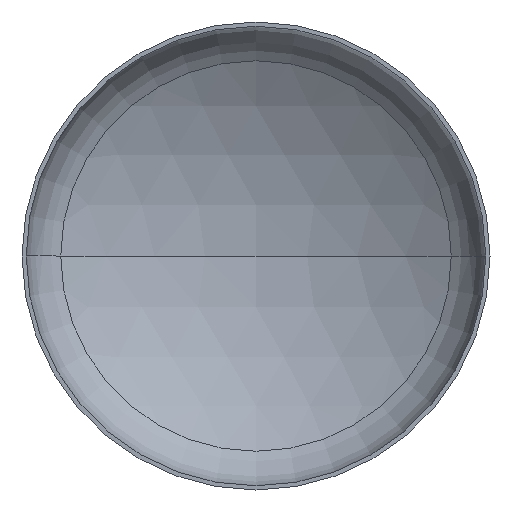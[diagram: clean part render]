
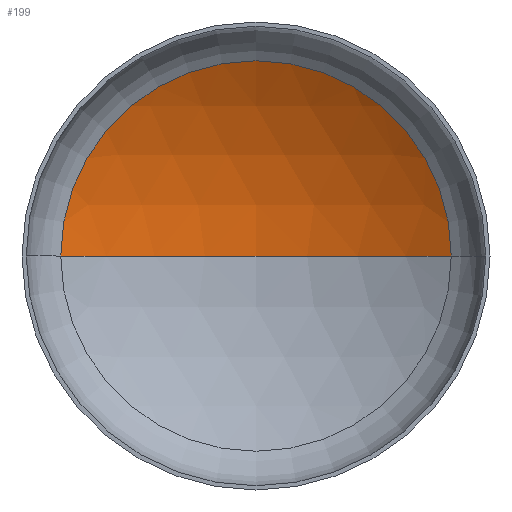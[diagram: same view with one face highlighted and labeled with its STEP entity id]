
A CAD part, front view. The second image highlights one B-rep face of the part: STEP entity #199.
In plain terms, the highlighted spherical face has radius 4800 mm.
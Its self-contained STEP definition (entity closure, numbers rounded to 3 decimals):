
#13 = VERTEX_POINT ( 'NONE', #242 ) ;
#19 = VERTEX_POINT ( 'NONE', #275 ) ;
#45 = CIRCLE ( 'NONE', #91, 4800. ) ;
#91 = AXIS2_PLACEMENT_3D ( 'NONE', #260, #225, #220 ) ;
#95 = AXIS2_PLACEMENT_3D ( 'NONE', #252, #251, #248 ) ;
#99 = AXIS2_PLACEMENT_3D ( 'NONE', #154, #157, #183 ) ;
#104 = ORIENTED_EDGE ( 'NONE', *, *, #227, .F. ) ;
#118 = CARTESIAN_POINT ( 'NONE',  ( -2503.432, 909.23, 0. ) ) ;
#128 = AXIS2_PLACEMENT_3D ( 'NONE', #158, #337, #281 ) ;
#144 = ORIENTED_EDGE ( 'NONE', *, *, #224, .T. ) ;
#154 = CARTESIAN_POINT ( 'NONE',  ( 0., 909.23, 0. ) ) ;
#157 = DIRECTION ( 'NONE',  ( 0., -1., 0. ) ) ;
#158 = CARTESIAN_POINT ( 'NONE',  ( 0., -3186.234, 0. ) ) ;
#183 = DIRECTION ( 'NONE',  ( 1., 0., 0. ) ) ;
#199 = ADVANCED_FACE ( 'NONE', ( #375 ), #300, .F. ) ;
#212 = CIRCLE ( 'NONE', #99, 2503.432 ) ;
#220 = DIRECTION ( 'NONE',  ( 1., 0., 0. ) ) ;
#221 = EDGE_CURVE ( 'NONE', #19, #334, #212, .T. ) ;
#224 = EDGE_CURVE ( 'NONE', #13, #19, #358, .T. ) ;
#225 = DIRECTION ( 'NONE',  ( 0., 0., 1. ) ) ;
#227 = EDGE_CURVE ( 'NONE', #13, #334, #45, .T. ) ;
#242 = CARTESIAN_POINT ( 'NONE',  ( 0., 1613.766, 0. ) ) ;
#248 = DIRECTION ( 'NONE',  ( -1., 0., 0. ) ) ;
#251 = DIRECTION ( 'NONE',  ( 0., 0., -1. ) ) ;
#252 = CARTESIAN_POINT ( 'NONE',  ( 0., -3186.234, 0. ) ) ;
#260 = CARTESIAN_POINT ( 'NONE',  ( 0., -3186.234, 0. ) ) ;
#275 = CARTESIAN_POINT ( 'NONE',  ( 2503.432, 909.23, 0. ) ) ;
#281 = DIRECTION ( 'NONE',  ( -1., 0., 0. ) ) ;
#300 = SPHERICAL_SURFACE ( 'NONE', #128, 4800. ) ;
#334 = VERTEX_POINT ( 'NONE', #118 ) ;
#337 = DIRECTION ( 'NONE',  ( 0., 0., -1. ) ) ;
#342 = EDGE_LOOP ( 'NONE', ( #104, #144, #406 ) ) ;
#358 = CIRCLE ( 'NONE', #95, 4800. ) ;
#375 = FACE_OUTER_BOUND ( 'NONE', #342, .T. ) ;
#406 = ORIENTED_EDGE ( 'NONE', *, *, #221, .T. ) ;
